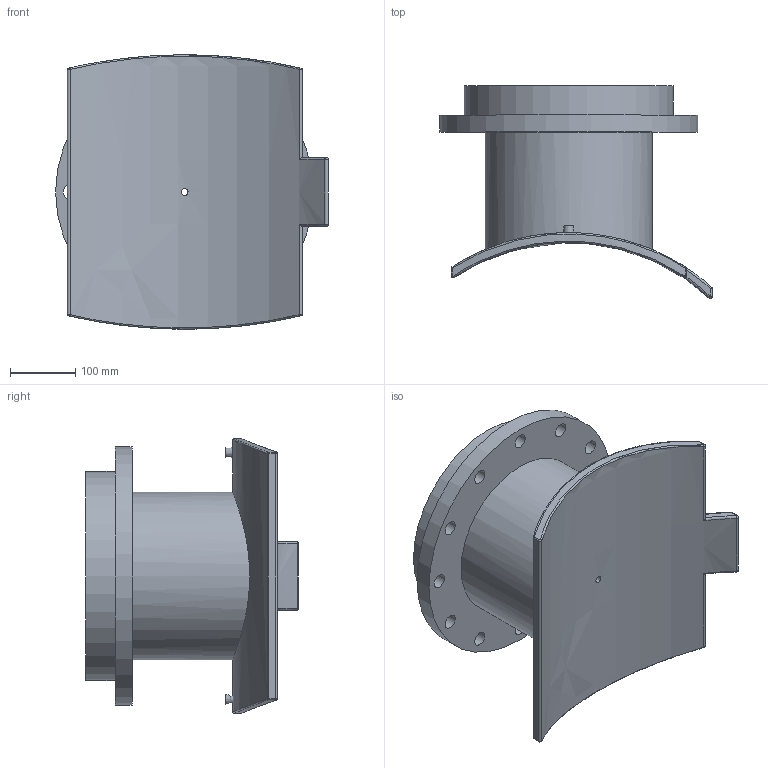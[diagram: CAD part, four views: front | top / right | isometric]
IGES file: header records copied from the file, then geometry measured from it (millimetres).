
Global section: file name: 495804710160T.ipt; native system: Autodesk Inventor 2015; preprocessor: unknown; author: KIM; date: 20171106.094403; units: millimetre
Bounding box: 417.5 x 325.34 x 419.89 mm (x, y, z)
Volume: 6011350.6 mm3; surface area: 909512.1 mm2
Topology: 2 solids, 2 shells, 79 faces, 176 edges, 111 vertices
Faces by surface type: cylinder 24, revolution 21, plane 16, bspline 12, sphere 4, cone 2
Full cylindrical faces by diameter (mm): 4 x2, 16 x1, 256 x1, 320 x1, 395 x1
